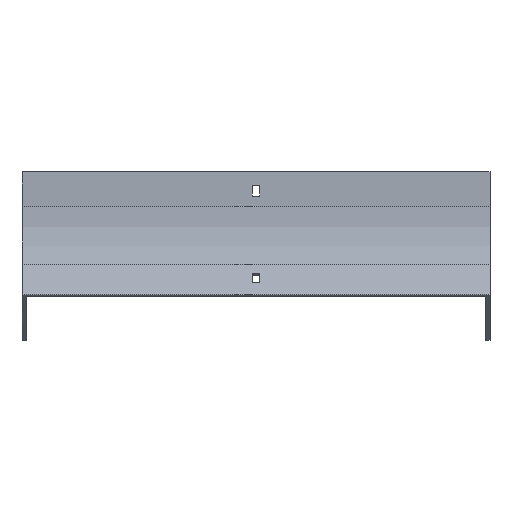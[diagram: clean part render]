
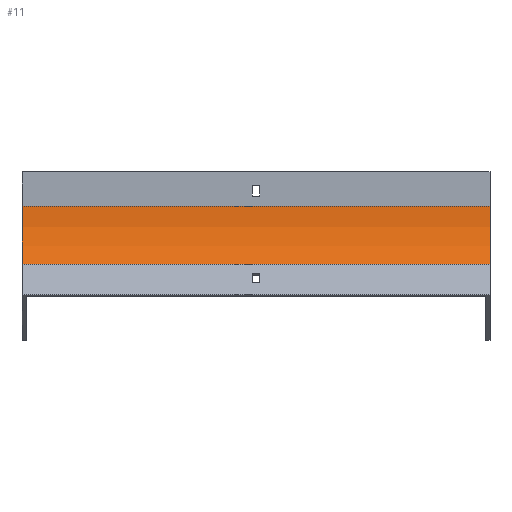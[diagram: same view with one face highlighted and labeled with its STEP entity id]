
A CAD part, front view. The second image highlights one B-rep face of the part: STEP entity #11.
In plain terms, the highlighted cylindrical face has radius 100 mm (diameter 200 mm), a partial arc.
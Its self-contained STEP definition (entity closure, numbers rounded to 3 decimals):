
#11 = ADVANCED_FACE ( 'NONE', ( #358 ), #365, .F. ) ;
#17 = DIRECTION ( 'NONE',  ( 0., 0., 1. ) ) ;
#159 = DIRECTION ( 'NONE',  ( 0., 0., 1. ) ) ;
#174 = DIRECTION ( 'NONE',  ( -1., 0., 0. ) ) ;
#288 = VERTEX_POINT ( 'NONE', #1281 ) ;
#345 = EDGE_CURVE ( 'NONE', #722, #288, #557, .T. ) ;
#358 = FACE_OUTER_BOUND ( 'NONE', #1470, .T. ) ;
#365 = CYLINDRICAL_SURFACE ( 'NONE', #1653, 100. ) ;
#405 = AXIS2_PLACEMENT_3D ( 'NONE', #1619, #454, #159 ) ;
#406 = CARTESIAN_POINT ( 'NONE',  ( -202., 0., -30. ) ) ;
#447 = VERTEX_POINT ( 'NONE', #1073 ) ;
#454 = DIRECTION ( 'NONE',  ( -1., 0., 0. ) ) ;
#472 = ORIENTED_EDGE ( 'NONE', *, *, #1762, .T. ) ;
#483 = CARTESIAN_POINT ( 'NONE',  ( 202., 0., -30. ) ) ;
#557 = CIRCLE ( 'NONE', #405, 100. ) ;
#606 = EDGE_CURVE ( 'NONE', #447, #288, #1236, .T. ) ;
#629 = VECTOR ( 'NONE', #1847, 1000. ) ;
#722 = VERTEX_POINT ( 'NONE', #406 ) ;
#766 = CARTESIAN_POINT ( 'NONE',  ( 202., -100., -30. ) ) ;
#776 = ORIENTED_EDGE ( 'NONE', *, *, #606, .F. ) ;
#887 = VECTOR ( 'NONE', #1066, 1000. ) ;
#919 = EDGE_CURVE ( 'NONE', #1178, #447, #1242, .T. ) ;
#937 = CARTESIAN_POINT ( 'NONE',  ( 202., -13.397, -80. ) ) ;
#939 = DIRECTION ( 'NONE',  ( 0., 0., 1. ) ) ;
#949 = CARTESIAN_POINT ( 'NONE',  ( 202., -100., -30. ) ) ;
#1066 = DIRECTION ( 'NONE',  ( -1., 0., 0. ) ) ;
#1073 = CARTESIAN_POINT ( 'NONE',  ( 202., -13.397, -80. ) ) ;
#1178 = VERTEX_POINT ( 'NONE', #1683 ) ;
#1236 = LINE ( 'NONE', #937, #629 ) ;
#1242 = CIRCLE ( 'NONE', #1403, 100. ) ;
#1281 = CARTESIAN_POINT ( 'NONE',  ( -202., -13.397, -80. ) ) ;
#1403 = AXIS2_PLACEMENT_3D ( 'NONE', #766, #174, #17 ) ;
#1470 = EDGE_LOOP ( 'NONE', ( #1584, #776, #1611, #472 ) ) ;
#1524 = LINE ( 'NONE', #483, #887 ) ;
#1533 = DIRECTION ( 'NONE',  ( -1., 0., 0. ) ) ;
#1584 = ORIENTED_EDGE ( 'NONE', *, *, #345, .T. ) ;
#1611 = ORIENTED_EDGE ( 'NONE', *, *, #919, .F. ) ;
#1619 = CARTESIAN_POINT ( 'NONE',  ( -202., -100., -30. ) ) ;
#1653 = AXIS2_PLACEMENT_3D ( 'NONE', #949, #1533, #939 ) ;
#1683 = CARTESIAN_POINT ( 'NONE',  ( 202., 0., -30. ) ) ;
#1762 = EDGE_CURVE ( 'NONE', #1178, #722, #1524, .T. ) ;
#1847 = DIRECTION ( 'NONE',  ( -1., 0., 0. ) ) ;
